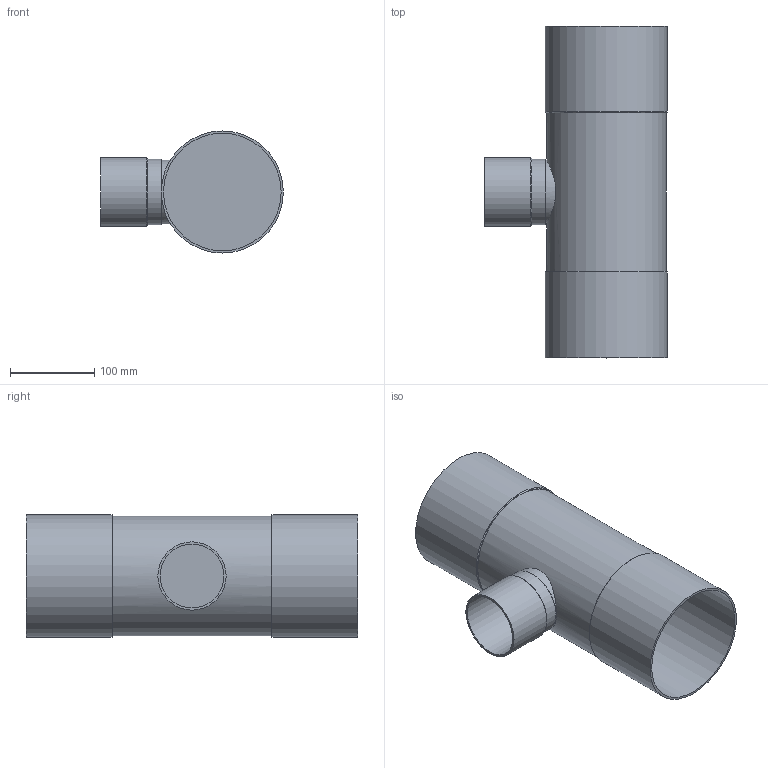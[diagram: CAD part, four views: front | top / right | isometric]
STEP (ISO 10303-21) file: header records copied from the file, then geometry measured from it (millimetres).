
FILE_DESCRIPTION(/* description */ ('Unknown'),/* implementation_level */ '2;1');
FILE_NAME(/* name */ 'F15DN139,7-76,1',/* time_stamp */ '2020-11-17T12:50:35+01:00',/* author */ ('Unknown'),/* organization */ ('Unknown'),/* preprocessor_version */ 'ST-DEVELOPER v16.7',/* originating_system */ 'DEX',/* authorisation */ $);
FILE_SCHEMA (('AUTOMOTIVE_DESIGN {1 0 10303 214 3 1 1}'));
Length unit declared in the file: millimetre
Products named in the file (1): F15DN139,7-76,1
Bounding box: 217 x 394 x 145 mm (x, y, z)
Volume: 3512989.9 mm3; surface area: 331180.6 mm2
Topology: 1 solids, 1 shells, 22 faces, 40 edges, 28 vertices
Faces by surface type: plane 10, cylinder 9, cone 3
Full cylindrical faces by diameter (mm): 76 x2, 78 x1, 81 x1, 139.7 x2, 142 x1, 145 x2
Entity records: 512 total; most frequent: CARTESIAN_POINT 116, DIRECTION 86, AXIS2_PLACEMENT_3D 43, ORIENTED_EDGE 42, EDGE_LOOP 42, FACE_BOUND 42, ADVANCED_FACE 22, EDGE_CURVE 21
